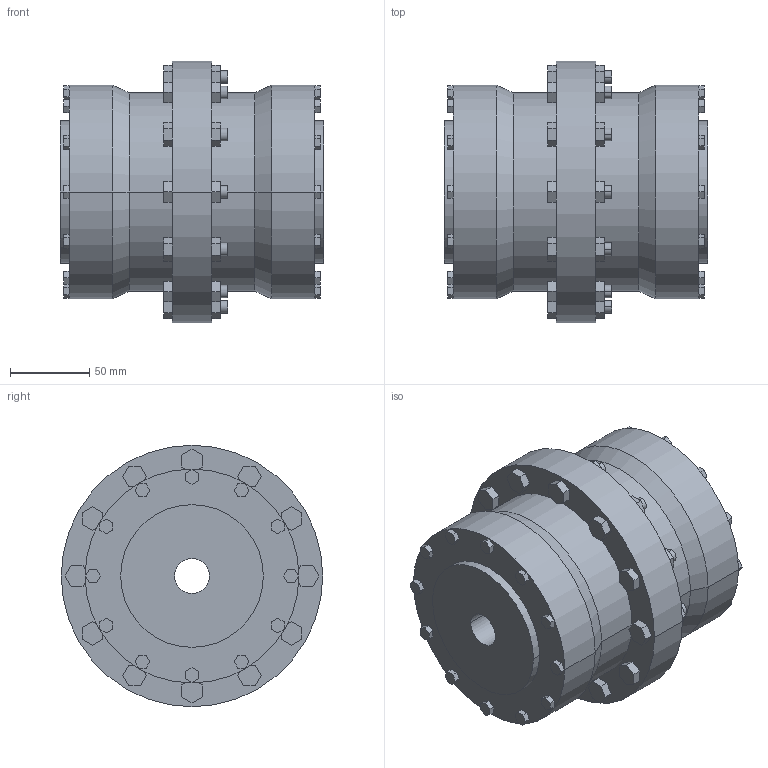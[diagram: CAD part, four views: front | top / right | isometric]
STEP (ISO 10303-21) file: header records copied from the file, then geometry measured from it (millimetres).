
FILE_DESCRIPTION((''),'2;1');
FILE_NAME('A18977800-0_ASM','2019-01-16T',('AB500900'),('RENK AG'),'PRO/ENGINEER BY PARAMETRIC TECHNOLOGY CORPORATION, 2016360','PRO/ENGINEER BY PARAMETRIC TECHNOLOGY CORPORATION, 2016360','');
FILE_SCHEMA(('CONFIG_CONTROL_DESIGN'));
Length unit declared in the file: millimetre
Products named in the file (3): SBK60_GEHAEUSE; SBK60_NABE; A18977800-0_ASM
Assembly tree (3 placements, depth 2):
  A18977800-0_ASM
    SBK60_GEHAEUSE
    SBK60_NABE  x2
Bounding box: 166 x 165 x 165 mm (x, y, z)
Volume: 1969592 mm3; surface area: 268870.4 mm2
Topology: 3 solids, 3 shells, 422 faces, 1036 edges, 688 vertices
Faces by surface type: plane 362, cylinder 56, cone 4
Entity records: 12052 total; most frequent: CARTESIAN_POINT 2100, ORIENTED_EDGE 2024, DIRECTION 1940, EDGE_CURVE 1012, VECTOR 916, LINE 916, VERTEX_POINT 672, AXIS2_PLACEMENT_3D 512
